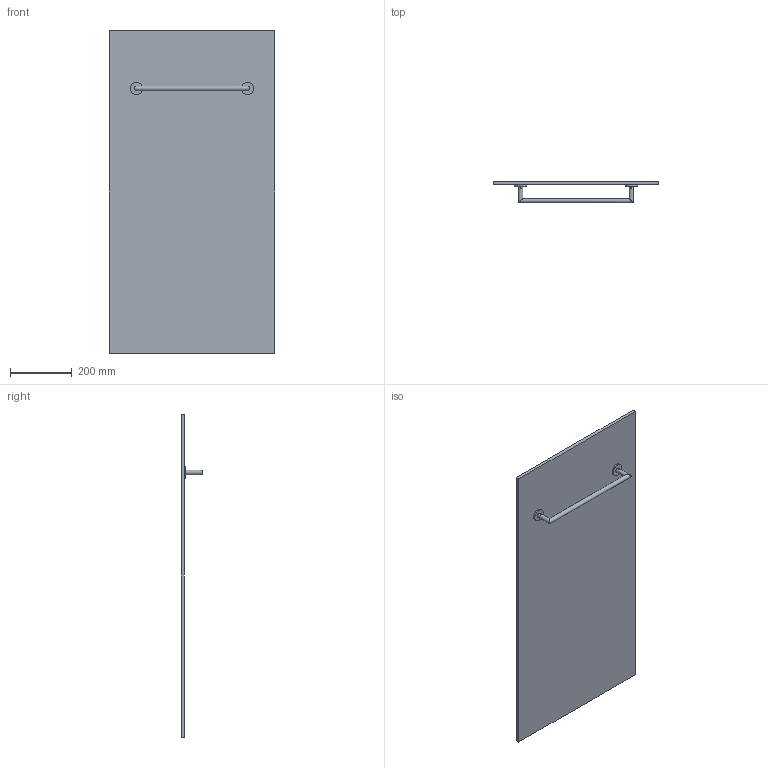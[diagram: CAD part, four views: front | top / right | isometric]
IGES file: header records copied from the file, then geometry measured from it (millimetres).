
Start section: Data from Parasolid IGES Translator 22.0.50, Copyright(c) 2006 Siemens P LM Software. All Rights Reserved.
Global section: file name: noorth_ZENO_H4_D6_W36_4364.igs; native system: By Siemens PLM Incorporated; preprocessor: XPlus GENERIC/IGES 22.0.50; author: Noname; organization: Noname; date: 20251123.103818; units: metre
Bounding box: 537 x 71 x 1047 mm (x, y, z)
Volume: 6224986.1 mm3; surface area: 1203998.7 mm2
Topology: 2 solids, 2 shells, 20 faces, 48 edges, 34 vertices
Faces by surface type: plane 10, cylinder 10
Full cylindrical faces by diameter (mm): 3.242 x2, 12 x3, 15 x3, 40 x2
